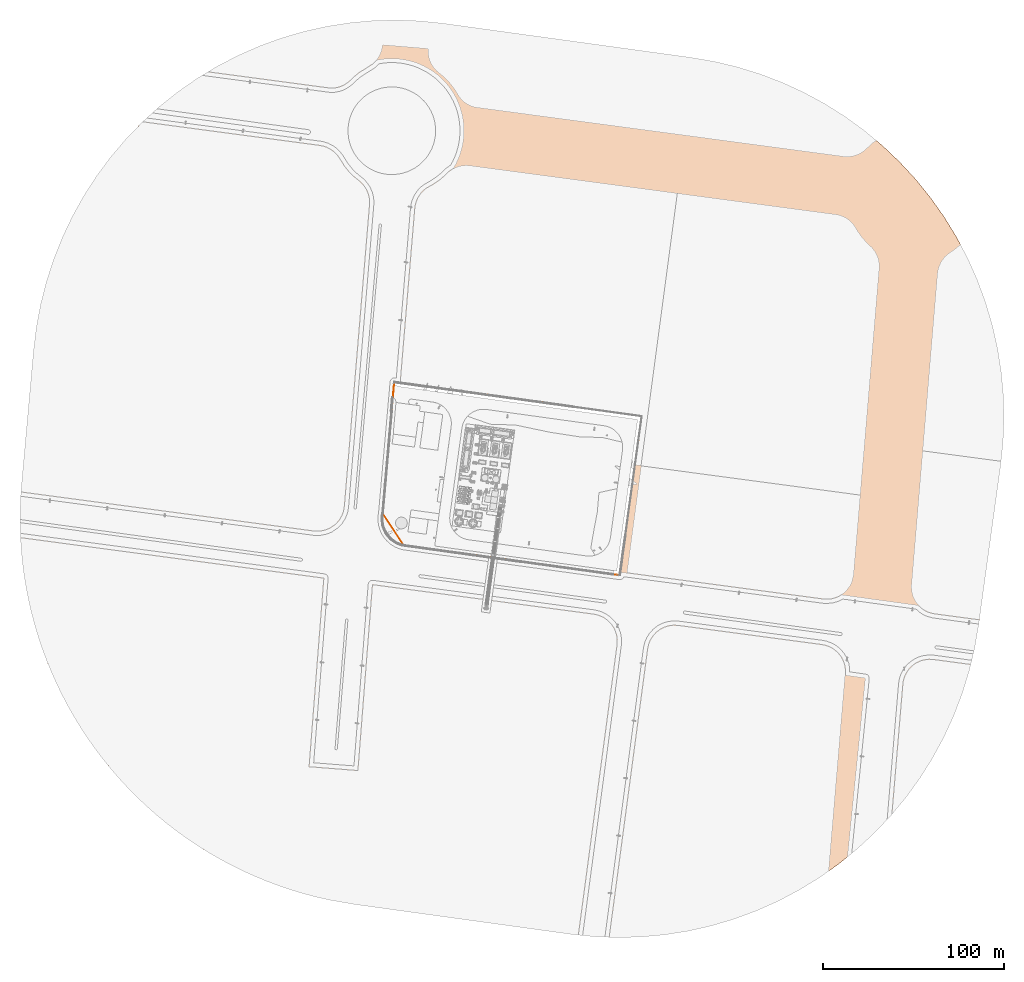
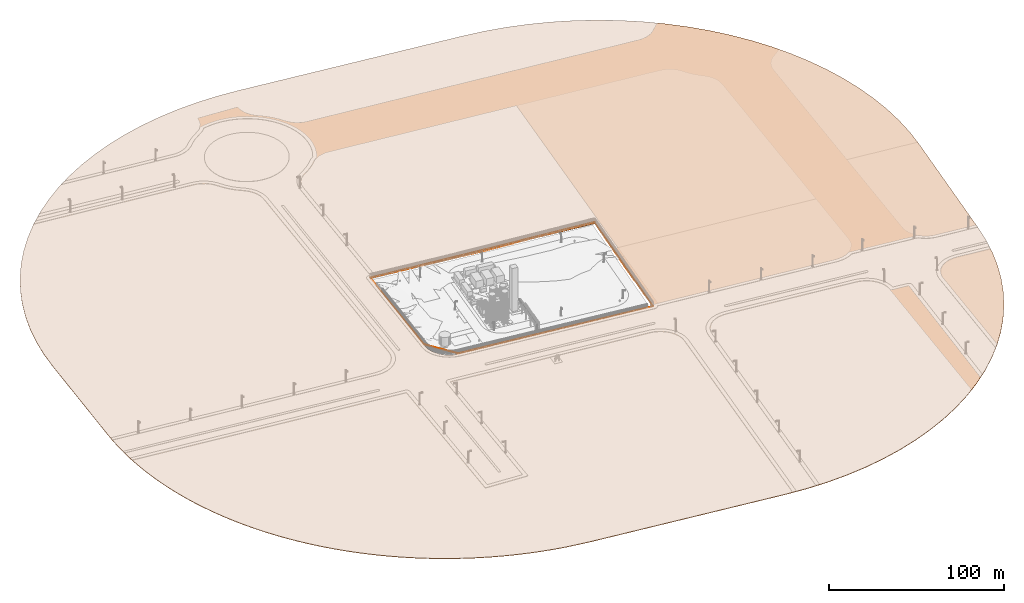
# Not in any storey, part 71 of 75: 1 geographic element, 1 proxy.
"""IFC4 model written with IfcOpenShell, lengths in metres."""

from ifc_helpers import new_model, si_unit, direction, origin, origin_with_axes, place, context, subcontext, project, spatial, triangles, element, save


model = new_model("IFC4")

# Units and contexts
model_context = context("Model", 3, precision=1e-05, world=origin_with_axes(), true_north=direction((0.0, 1.0)))
body_context = subcontext(model_context, "Body", "Model", "MODEL_VIEW")
ifc_project = project(units=[si_unit("AREAUNIT", "SQUARE_METRE"), si_unit("VOLUMEUNIT", "CUBIC_METRE"), si_unit("LENGTHUNIT", "METRE")], contexts=[model_context])

# Site
site_placement = place(None, origin_with_axes())
site = spatial("IfcSite", under=ifc_project, at=site_placement, Name="Parcela industrial Jinhong")

# Proxy
proxy_placement = place(site_placement, origin_with_axes())
element("IfcBuildingElementProxy", 1, at=proxy_placement, inside=site, Name="Lindero de parcela · línea de control de coordenadas", ObjectType="Lindero de parcela", PredefinedType="USERDEFINED", context=body_context, shape_type="Tessellation", body=[
    triangles([(0.56378, 109.37282, 0.74), (0.561348, 109.36662, 0.74), (0.562416, 109.369778, 0.74), (0.577305, 109.387198, 0.74), (0.565426, 109.375719, 0.74), (0.569508, 109.380982, 0.74), (0.567342, 109.378448, 0.74), (0.571905, 109.383299, 0.74), (0.574512, 109.385377, 0.74), (0.586539, 109.390962, 0.74), (0.580259, 109.388744, 0.74), (0.583346, 109.390003, 0.74), (0.596459, 109.39197, 0.74), (0.589808, 109.391613, 0.74), (0.593125, 109.39195, 0.74), (0.59978, 109.391672, 0.74), (137.257452, 90.553074, 3.04), (137.250779, 90.554672, 3.04), (137.254155, 90.554037, 3.04), (137.263684, 90.550204, 3.04), (137.260638, 90.551792, 3.04), (137.27169, 90.54377, 3.04), (137.266559, 90.548325, 3.04), (137.269237, 90.546174, 3.04), (137.273896, 90.541137, 3.04), (137.275834, 90.538301, 3.04), (137.277484, 90.535289, 3.04), (137.278831, 90.532129, 3.04), (137.280938, 90.522076, 3.04), (137.279862, 90.528853, 3.04), (137.280567, 90.525491, 3.04), (137.280974, 90.518642, 3.04), (137.206548, 90.490107, 3.039268), (131.154672, 46.07722, 1.94), (131.085328, 46.08678, 2.483314), (125.168073, 2.652547, 1.94), (125.169672, 2.659221, 1.94), (125.169037, 2.655845, 1.94), (125.163324, 2.643439, 1.94), (125.166791, 2.64936, 1.94), (125.165203, 2.646314, 1.94), (125.156134, 2.636101, 1.94), (125.161172, 2.640761, 1.94), (125.158768, 2.638308, 1.94), (125.150285, 2.632514, 1.94), (125.153298, 2.634164, 1.94), (125.147125, 2.631167, 1.94), (125.143848, 2.630137, 1.94), (125.140485, 2.629432, 1.94), (125.130214, 2.629329, 1.94), (125.13707, 2.629061, 1.94), (125.133635, 2.629027, 1.94), (6.01397, 19.073934, 0.79), (5.99282, 19.088673, 0.79), (6.017214, 19.073329, 0.79), (6.001989, 19.079285, 0.79), (6.010799, 19.074841, 0.79), (6.007726, 19.076043, 0.79), (6.004781, 19.077528, 0.79), (5.99696, 19.083546, 0.79), (5.999374, 19.081297, 0.79), (5.994769, 19.086012, 0.79), (6.042449, 19.140509, 0.790134), (-5.81318, 36.913673, 0.41), (-5.748061, 36.942122, 0.410747), (137.280672, 90.51522, 3.04), (0.560135, 109.360071, 0.74), (0.626639, 109.317307, 0.740087), (-5.81881, 36.929353, 0.41), (-5.818865, 36.936071, 0.41), (-5.8149, 36.916563, 0.41), (-5.817471, 36.92277, 0.41), (-5.816335, 36.919604, 0.41), (-5.818299, 36.926029, 0.41), (-5.818999, 36.932711, 0.41), (0.560585, 109.363374, 0.74), (68.92478, 99.972672, 0.89), (68.91522, 99.903328, 1.741883), (125.105108, 2.703459, 1.940136), (0.56378, 109.37282, 0.84), (0.561348, 109.36662, 0.84), (0.562416, 109.369778, 0.84), (0.577305, 109.387198, 0.84), (0.565426, 109.375719, 0.84), (0.569508, 109.380982, 0.84), (0.567342, 109.378448, 0.84), (0.571905, 109.383299, 0.84), (0.574512, 109.385377, 0.84), (0.586539, 109.390962, 0.84), (0.580259, 109.388744, 0.84), (0.583346, 109.390003, 0.84), (0.596459, 109.39197, 0.84), (0.589808, 109.391613, 0.84), (0.593125, 109.39195, 0.84), (0.59978, 109.391672, 0.84), (137.257452, 90.553074, 3.14), (137.250779, 90.554672, 3.14), (137.254155, 90.554037, 3.14), (137.263684, 90.550204, 3.14), (137.260638, 90.551792, 3.14), (137.27169, 90.54377, 3.14), (137.266559, 90.548325, 3.14), (137.269237, 90.546174, 3.14), (137.273896, 90.541137, 3.14), (137.275834, 90.538301, 3.14), (137.277484, 90.535289, 3.14), (137.278831, 90.532129, 3.14), (137.280938, 90.522076, 3.14), (137.279862, 90.528853, 3.14), (137.280567, 90.525491, 3.14), (137.280974, 90.518642, 3.14), (137.206548, 90.490107, 3.139268), (131.154672, 46.07722, 2.04), (131.085328, 46.08678, 2.583314), (125.168073, 2.652547, 2.04), (125.169672, 2.659221, 2.04), (125.169037, 2.655845, 2.04), (125.163324, 2.643439, 2.04), (125.166791, 2.64936, 2.04), (125.165203, 2.646314, 2.04), (125.156134, 2.636101, 2.04), (125.161172, 2.640761, 2.04), (125.158768, 2.638308, 2.04), (125.150285, 2.632514, 2.04), (125.153298, 2.634164, 2.04), (125.147125, 2.631167, 2.04), (125.143848, 2.630137, 2.04), (125.140485, 2.629432, 2.04), (125.130214, 2.629329, 2.04), (125.13707, 2.629061, 2.04), (125.133635, 2.629027, 2.04), (6.01397, 19.073934, 0.89), (5.99282, 19.088673, 0.89), (6.017214, 19.073329, 0.89), (6.001989, 19.079285, 0.89), (6.010799, 19.074841, 0.89), (6.007726, 19.076043, 0.89), (6.004781, 19.077528, 0.89), (5.99696, 19.083546, 0.89), (5.999374, 19.081297, 0.89), (5.994769, 19.086012, 0.89), (6.042449, 19.140509, 0.890134), (-5.81318, 36.913673, 0.51), (-5.748061, 36.942122, 0.510747), (137.280672, 90.51522, 3.14), (0.560135, 109.360071, 0.84), (0.626639, 109.317307, 0.840087), (-5.81881, 36.929353, 0.51), (-5.818865, 36.936071, 0.51), (-5.8149, 36.916563, 0.51), (-5.817471, 36.92277, 0.51), (-5.816335, 36.919604, 0.51), (-5.818299, 36.926029, 0.51), (-5.818999, 36.932711, 0.51), (0.560585, 109.363374, 0.84), (68.92478, 99.972672, 0.99), (68.91522, 99.903328, 1.841883), (125.105108, 2.703459, 2.040136)], [[1, 2, 3], [4, 5, 6], [5, 7, 6], [6, 8, 9], [10, 4, 11], [11, 12, 10], [13, 14, 15], [14, 13, 16], [17, 18, 19], [20, 17, 21], [22, 20, 23], [23, 24, 22], [22, 25, 26], [22, 27, 28], [29, 30, 31], [30, 29, 32], [33, 34, 35], [36, 37, 38], [39, 36, 40], [40, 41, 39], [42, 43, 44], [45, 42, 46], [42, 45, 47], [47, 48, 49], [50, 51, 52], [53, 54, 55], [56, 53, 57], [57, 58, 59], [60, 56, 61], [54, 60, 62], [63, 54, 64], [64, 65, 63], [18, 66, 33], [67, 16, 68], [69, 70, 71], [72, 71, 73], [69, 72, 74], [70, 69, 75], [1, 14, 2], [2, 67, 76], [5, 4, 1], [4, 6, 9], [4, 10, 14], [68, 77, 78], [28, 17, 22], [17, 20, 22], [27, 22, 26], [30, 32, 28], [39, 37, 36], [43, 42, 39], [50, 42, 47], [51, 47, 49], [79, 55, 63], [56, 57, 59], [53, 60, 54], [71, 70, 64], [71, 72, 69], [2, 14, 67], [14, 1, 4], [67, 14, 16], [17, 66, 18], [17, 28, 32], [37, 79, 34], [37, 39, 42], [51, 50, 47], [53, 56, 60], [64, 70, 65], [67, 68, 70], [18, 33, 77], [17, 32, 66], [37, 42, 50], [55, 54, 63], [65, 70, 68], [55, 79, 50], [77, 68, 16], [37, 50, 79], [78, 77, 33], [35, 34, 79], [34, 33, 66], [82, 81, 80], [85, 84, 83], [85, 86, 84], [88, 87, 85], [90, 83, 89], [89, 91, 90], [94, 93, 92], [95, 92, 93], [98, 97, 96], [100, 96, 99], [102, 99, 101], [101, 103, 102], [105, 104, 101], [107, 106, 101], [110, 109, 108], [111, 108, 109], [114, 113, 112], [117, 116, 115], [119, 115, 118], [118, 120, 119], [123, 122, 121], [125, 121, 124], [126, 124, 121], [128, 127, 126], [131, 130, 129], [134, 133, 132], [136, 132, 135], [138, 137, 136], [140, 135, 139], [141, 139, 133], [143, 133, 142], [142, 144, 143], [112, 145, 97], [147, 95, 146], [150, 149, 148], [152, 150, 151], [153, 151, 148], [154, 148, 149], [81, 93, 80], [155, 146, 81], [80, 83, 84], [88, 85, 83], [93, 89, 83], [157, 156, 147], [101, 96, 107], [101, 99, 96], [105, 101, 106], [107, 111, 109], [115, 116, 118], [118, 121, 122], [126, 121, 129], [128, 126, 130], [142, 134, 158], [138, 136, 135], [133, 139, 132], [143, 149, 150], [148, 151, 150], [146, 93, 81], [83, 80, 93], [95, 93, 146], [97, 145, 96], [111, 107, 96], [113, 158, 116], [121, 118, 116], [126, 129, 130], [139, 135, 132], [144, 149, 143], [149, 147, 146], [156, 112, 97], [145, 111, 96], [129, 121, 116], [142, 133, 134], [147, 149, 144], [129, 158, 134], [95, 147, 156], [158, 129, 116], [112, 156, 157], [158, 113, 114], [145, 112, 113], [82, 80, 3], [3, 80, 1], [81, 82, 2], [2, 82, 3], [80, 84, 1], [1, 84, 5], [84, 86, 5], [5, 86, 7], [86, 85, 7], [7, 85, 6], [85, 87, 6], [6, 87, 8], [88, 83, 9], [9, 83, 4], [87, 88, 8], [8, 88, 9], [83, 90, 4], [4, 90, 11], [91, 89, 12], [12, 89, 10], [90, 91, 11], [11, 91, 12], [89, 93, 10], [10, 93, 14], [94, 92, 15], [15, 92, 13], [93, 94, 14], [14, 94, 15], [92, 95, 13], [13, 95, 16], [98, 96, 19], [19, 96, 17], [97, 98, 18], [18, 98, 19], [96, 100, 17], [17, 100, 21], [100, 99, 21], [21, 99, 20], [99, 102, 20], [20, 102, 23], [103, 101, 24], [24, 101, 22], [102, 103, 23], [23, 103, 24], [101, 104, 22], [22, 104, 25], [104, 105, 25], [25, 105, 26], [105, 106, 26], [26, 106, 27], [106, 107, 27], [27, 107, 28], [107, 109, 28], [28, 109, 30], [110, 108, 31], [31, 108, 29], [109, 110, 30], [30, 110, 31], [108, 111, 29], [29, 111, 32], [114, 112, 35], [35, 112, 33], [113, 116, 34], [34, 116, 37], [117, 115, 38], [38, 115, 36], [116, 117, 37], [37, 117, 38], [115, 119, 36], [36, 119, 40], [120, 118, 41], [41, 118, 39], [119, 120, 40], [40, 120, 41], [118, 122, 39], [39, 122, 43], [123, 121, 44], [44, 121, 42], [122, 123, 43], [43, 123, 44], [121, 125, 42], [42, 125, 46], [125, 124, 46], [46, 124, 45], [124, 126, 45], [45, 126, 47], [126, 127, 47], [47, 127, 48], [127, 128, 48], [48, 128, 49], [128, 130, 49], [49, 130, 51], [131, 129, 52], [52, 129, 50], [130, 131, 51], [51, 131, 52], [129, 134, 50], [50, 134, 55], [134, 132, 55], [55, 132, 53], [132, 136, 53], [53, 136, 57], [136, 137, 57], [57, 137, 58], [138, 135, 59], [59, 135, 56], [137, 138, 58], [58, 138, 59], [135, 140, 56], [56, 140, 61], [140, 139, 61], [61, 139, 60], [141, 133, 62], [62, 133, 54], [139, 141, 60], [60, 141, 62], [133, 143, 54], [54, 143, 64], [144, 142, 65], [65, 142, 63], [111, 145, 32], [32, 145, 66], [145, 113, 66], [66, 113, 34], [147, 144, 68], [68, 144, 65], [149, 146, 70], [70, 146, 67], [143, 150, 64], [64, 150, 71], [150, 152, 71], [71, 152, 73], [152, 151, 73], [73, 151, 72], [153, 148, 74], [74, 148, 69], [151, 153, 72], [72, 153, 74], [148, 154, 69], [69, 154, 75], [154, 149, 75], [75, 149, 70], [155, 81, 76], [76, 81, 2], [146, 155, 67], [67, 155, 76], [95, 156, 16], [16, 156, 77], [156, 97, 77], [77, 97, 18], [112, 157, 33], [33, 157, 78], [157, 147, 78], [78, 147, 68], [158, 114, 79], [79, 114, 35], [142, 158, 63], [63, 158, 79]], closed=True),
])

# Geographic element
geographic_element_placement = place(None, origin())
element("IfcGeographicElement", 2, at=geographic_element_placement, inside=site, Name="Terreno exterior · alcance 200 m", ObjectType="Terreno exterior · alcance 200 m", PredefinedType="USERDEFINED", context=body_context, shape_type="Tessellation", body=[
    triangles([(0.595, 109.357, 0.287181), (-194.714322, 152.418223, -1.818957), (-191.515064, 164.978249, -1.749062), (-187.508994, 177.304681, -1.670615), (-182.712937, 189.345751, -1.583946), (-177.147035, 201.050888, -1.489419), (-170.834662, 212.370935, -1.387431), (-163.80233, 223.258351, -1.278409), (-156.079573, 233.667411, -1.162813), (-138.695278, 252.877795, -0.913862), (-129.10675, 261.59844, -0.781553), (-118.973509, 269.679711, -0.644756), (-108.338112, 277.087669, -0.504045), (-97.245224, 283.791201, -0.360012), (-73.875051, 294.975457, -0.064406), (-61.695915, 299.409209, 0.085924), (-49.255173, 303.044791, 0.2371), (-36.605073, 305.866935, 0.388485), (-23.798743, 307.863789, 0.539446), (-10.889966, 309.026967, 0.689347), (-205.258931, 52.9119, -2.204378), (-5.784005, 36.93326, 0.021395), (-6.065213, 34.971371, 0.012962), (-206.036999, 39.309991, -2.249519), (-6.104833, 33.48497, 0.008545), (2.067045, 309.351583, 0.837559), (15.017874, 308.836274, 0.983459), (177.457918, 286.434428, 2.770936), (137.245324, 90.518764, 1.790889), (164.558455, 288.644968, 2.630143), (190.185187, 283.384963, 2.907532), (202.685765, 279.509633, 3.039347), (214.906123, 274.825032, 3.165816), (226.793931, 269.351219, 3.286397), (238.298287, 263.111634, 3.400575), (249.369927, 256.132994, 3.507859), (259.961443, 248.445184, 3.607792), (270.02748, 240.081123, 3.699944), (279.524935, 231.076625, 3.783922), (304.212328, 200.618807, 3.983395), (296.654033, 211.303132, 3.925951), (311.05566, 189.463027, 4.03145), (317.154725, 177.88356, 4.069911), (322.483405, 165.929992, 4.098613), (327.018884, 153.653509, 4.117433), (330.74174, 141.106678, 4.126291), (333.636032, 128.343226, 4.125148), (335.689366, 115.417807, 4.11401), (336.892949, 102.385769, 4.092924), (337.241628, 89.302916, 4.061981), (336.73391, 76.225269, 4.021313), (335.371969, 63.208828, 3.971094), (318.0015, -50.27581, 3.470752), (125.13542, 2.664487, 1.418758), (321.051363, -37.546747, 3.539399), (314.125541, -62.778116, 3.393316), (290.744247, -109.468098, 3.002845), (297.724348, -98.395208, 3.111767), (283.054798, -120.060694, 2.887138), (265.682502, -139.625772, 2.637377), (274.688939, -130.127625, 2.765141), (256.074064, -148.514452, 2.504394), (212.47832, -177.255545, 1.931939), (224.060125, -171.156981, 2.079919), (188.24358, -187.117915, 1.630029), (200.522401, -182.583464, 1.781761), (162.928761, -193.732212, 1.324503), (175.694449, -190.839478, 1.477391), (136.967119, -196.985234, 1.02059), (150.001194, -195.783726, 1.172018), (97.784986, -195.456572, 0.579094), (110.802982, -196.821305, 0.723491), (-21.328239, -179.013098, -0.731574), (6.022195, 19.10796, 0.108091), (-49.726157, -173.022185, -1.038526), (4.578563, 19.464171, 0.092625), (-42.856508, -174.846703, -0.965274), (-56.059255, -171.121912, -1.105475), (-69.921038, -166.201337, -1.249981), (3.1773, 19.961583, 0.078017), (-63.265821, -168.697139, -1.180958), (-82.96588, -160.556814, -1.383264), (-76.034841, -163.683283, -1.312787), (1.832178, 20.595308, 0.064411), (-89.341247, -157.414261, -1.447379), (-95.175656, -154.303177, -1.505426), (0.148772, 21.641363, 0.048059), (-119.47253, -138.642728, -1.739941), (-125.10356, -134.305398, -1.792404), (-113.293555, -143.073798, -1.681498), (-130.210444, -130.105527, -1.839272), (-1.382, 22.900261, 0.03401), (-135.920274, -125.084376, -1.890806), (-140.738489, -120.556244, -1.933516), (-155.61043, -104.601971, -2.060068), (-2.413717, 23.971016, 0.025135), (-150.944596, -109.963961, -2.021316), (-159.789485, -99.47804, -2.09392), (-172.160886, -82.119882, -2.18829), (-3.614921, 25.547466, 0.015681), (-168.509755, -87.632451, -2.161479), (-176.147681, -75.645348, -2.216352), (-4.373531, 26.826321, 0.010466), (-182.752632, -63.621987, -2.259381), (-186.078707, -56.784491, -2.278961), (-5.001776, 28.17401, 0.006918), (-188.967455, -50.290181, -2.294483), (-196.176332, -30.757584, -2.324343), (-194.093271, -37.032935, -2.317399), (-5.626167, 30.055026, 0.004837), (-198.199224, -23.943713, -2.329166), (-5.997072, 32.001951, 0.005814), (-201.664842, -9.648589, -2.330434), (-202.986961, -2.664826, -2.326834), (-204.077504, 4.358824, -2.320495), (-204.883019, 10.921622, -2.312144), (-205.523416, 18.000522, -2.300538), (-205.949032, 25.59216, -2.285122), (-206.100721, 32.202468, -2.269209), (-205.738368, 46.411523, -2.227174), (-198.642102, 126.809141, -1.931955), (-197.093331, 139.677351, -1.880007), (-147.698823, 243.5544, -1.041127), (-85.741432, 289.762156, -0.21326), (27.908131, 307.483204, 1.126435), (309.440086, -75.000113, 3.307422), (303.965205, -86.889453, 3.213438), (123.882367, -197.331588, 0.870867), (-101.763039, -150.505744, -1.570204), (-107.795888, -146.74733, -1.628781), (-164.397812, -93.430111, -2.130188), (-179.665315, -69.469007, -2.239874), (-191.46061, -44.166182, -2.306494), (288.413139, 221.47025, 3.859365), (323.262065, -24.645449, 3.598963), (-35.445254, -176.545945, -0.885528), (-145.760036, -115.525836, -1.977198), (-199.995772, -17.066696, -2.331247), (245.904781, -156.755592, 2.36676), (235.21821, -164.313893, 2.225066), (0.595, 109.357, 0.587181), (-194.714322, 152.418223, -1.518957), (-191.515064, 164.978249, -1.449062), (-187.508994, 177.304681, -1.370615), (-182.712937, 189.345751, -1.283946), (-177.147035, 201.050888, -1.189419), (-170.834662, 212.370935, -1.087431), (-163.80233, 223.258351, -0.978409), (-156.079573, 233.667411, -0.862813), (-138.695278, 252.877795, -0.613862), (-129.10675, 261.59844, -0.481553), (-118.973509, 269.679711, -0.344756), (-108.338112, 277.087669, -0.204045), (-97.245224, 283.791201, -0.060012), (-73.875051, 294.975457, 0.235594), (-61.695915, 299.409209, 0.385924), (-49.255173, 303.044791, 0.5371), (-36.605073, 305.866935, 0.688485), (-23.798743, 307.863789, 0.839446), (-10.889966, 309.026967, 0.989347), (-205.258931, 52.9119, -1.904378), (-5.784005, 36.93326, 0.321395), (-6.065213, 34.971371, 0.312962), (-206.036999, 39.309991, -1.949519), (-6.104833, 33.48497, 0.308545), (2.067045, 309.351583, 1.137559), (15.017874, 308.836274, 1.283459), (177.457918, 286.434428, 3.070936), (137.245324, 90.518764, 2.090889), (164.558455, 288.644968, 2.930143), (190.185187, 283.384963, 3.207532), (202.685765, 279.509633, 3.339347), (214.906123, 274.825032, 3.465816), (226.793931, 269.351219, 3.586397), (238.298287, 263.111634, 3.700575), (249.369927, 256.132994, 3.807859), (259.961443, 248.445184, 3.907792), (270.02748, 240.081123, 3.999944), (279.524935, 231.076625, 4.083922), (304.212328, 200.618807, 4.283395), (296.654033, 211.303132, 4.225951), (311.05566, 189.463027, 4.33145), (317.154725, 177.88356, 4.369911), (322.483405, 165.929992, 4.398613), (327.018884, 153.653509, 4.417433), (330.74174, 141.106678, 4.426291), (333.636032, 128.343226, 4.425148), (335.689366, 115.417807, 4.41401), (336.892949, 102.385769, 4.392924), (337.241628, 89.302916, 4.361981), (336.73391, 76.225269, 4.321313), (335.371969, 63.208828, 4.271094), (318.0015, -50.27581, 3.770752), (125.13542, 2.664487, 1.718758), (321.051363, -37.546747, 3.839399), (314.125541, -62.778116, 3.693316), (290.744247, -109.468098, 3.302845), (297.724348, -98.395208, 3.411767), (283.054798, -120.060694, 3.187138), (265.682502, -139.625772, 2.937377), (274.688939, -130.127625, 3.065141), (256.074064, -148.514452, 2.804394), (212.47832, -177.255545, 2.231939), (224.060125, -171.156981, 2.379919), (188.24358, -187.117915, 1.930029), (200.522401, -182.583464, 2.081761), (162.928761, -193.732212, 1.624503), (175.694449, -190.839478, 1.777391), (136.967119, -196.985234, 1.32059), (150.001194, -195.783726, 1.472018), (97.784986, -195.456572, 0.879094), (110.802982, -196.821305, 1.023491), (-21.328239, -179.013098, -0.431574), (6.022195, 19.10796, 0.408091), (-49.726157, -173.022185, -0.738526), (4.578563, 19.464171, 0.392625), (-42.856508, -174.846703, -0.665274), (-56.059255, -171.121912, -0.805475), (-69.921038, -166.201337, -0.949981), (3.1773, 19.961583, 0.378017), (-63.265821, -168.697139, -0.880958), (-82.96588, -160.556814, -1.083264), (-76.034841, -163.683283, -1.012787), (1.832178, 20.595308, 0.364411), (-89.341247, -157.414261, -1.147379), (-95.175656, -154.303177, -1.205426), (0.148772, 21.641363, 0.348059), (-119.47253, -138.642728, -1.439941), (-125.10356, -134.305398, -1.492404), (-113.293555, -143.073798, -1.381498), (-130.210444, -130.105527, -1.539272), (-1.382, 22.900261, 0.33401), (-135.920274, -125.084376, -1.590806), (-140.738489, -120.556244, -1.633516), (-155.61043, -104.601971, -1.760068), (-2.413717, 23.971016, 0.325135), (-150.944596, -109.963961, -1.721316), (-159.789485, -99.47804, -1.79392), (-172.160886, -82.119882, -1.88829), (-3.614921, 25.547466, 0.315681), (-168.509755, -87.632451, -1.861479), (-176.147681, -75.645348, -1.916352), (-4.373531, 26.826321, 0.310466), (-182.752632, -63.621987, -1.959381), (-186.078707, -56.784491, -1.978961), (-5.001776, 28.17401, 0.306918), (-188.967455, -50.290181, -1.994483), (-196.176332, -30.757584, -2.024343), (-194.093271, -37.032935, -2.017399), (-5.626167, 30.055026, 0.304837), (-198.199224, -23.943713, -2.029166), (-5.997072, 32.001951, 0.305814), (-201.664842, -9.648589, -2.030434), (-202.986961, -2.664826, -2.026834), (-204.077504, 4.358824, -2.020495), (-204.883019, 10.921622, -2.012144), (-205.523416, 18.000522, -2.000538), (-205.949032, 25.59216, -1.985122), (-206.100721, 32.202468, -1.969209), (-205.738368, 46.411523, -1.927174), (-198.642102, 126.809141, -1.631955), (-197.093331, 139.677351, -1.580007), (-147.698823, 243.5544, -0.741127), (-85.741432, 289.762156, 0.08674), (27.908131, 307.483204, 1.426435), (309.440086, -75.000113, 3.607422), (303.965205, -86.889453, 3.513438), (123.882367, -197.331588, 1.170867), (-101.763039, -150.505744, -1.270204), (-107.795888, -146.74733, -1.328781), (-164.397812, -93.430111, -1.830188), (-179.665315, -69.469007, -1.939874), (-191.46061, -44.166182, -2.006494), (288.413139, 221.47025, 4.159365), (323.262065, -24.645449, 3.898963), (-35.445254, -176.545945, -0.585528), (-145.760036, -115.525836, -1.677198), (-199.995772, -17.066696, -2.031247), (245.904781, -156.755592, 2.66676), (235.21821, -164.313893, 2.525066)], [[1, 2, 3], [1, 4, 5], [1, 6, 7], [1, 8, 9], [1, 10, 11], [1, 11, 12], [1, 13, 14], [1, 15, 16], [1, 16, 17], [1, 18, 19], [1, 19, 20], [21, 22, 23], [24, 23, 25], [1, 26, 27], [28, 29, 30], [29, 31, 32], [29, 32, 33], [29, 34, 35], [29, 36, 37], [29, 38, 39], [40, 29, 41], [29, 40, 42], [29, 43, 44], [29, 45, 46], [29, 47, 48], [29, 49, 50], [29, 51, 52], [53, 54, 55], [54, 53, 56], [57, 54, 58], [54, 57, 59], [60, 54, 61], [54, 60, 62], [63, 54, 64], [65, 54, 66], [67, 54, 68], [69, 54, 70], [71, 54, 72], [73, 74, 71], [75, 76, 77], [78, 76, 75], [79, 80, 81], [82, 80, 83], [80, 82, 84], [84, 85, 86], [87, 88, 89], [87, 90, 88], [87, 89, 91], [92, 93, 94], [95, 96, 97], [96, 95, 98], [99, 100, 101], [100, 99, 102], [103, 104, 105], [106, 105, 107], [108, 106, 109], [110, 108, 111], [112, 113, 114], [112, 114, 115], [112, 116, 117], [25, 118, 119], [23, 24, 120], [1, 121, 122], [1, 122, 2], [1, 5, 6], [1, 9, 123], [1, 12, 13], [1, 124, 15], [1, 17, 18], [121, 1, 22], [1, 27, 125], [31, 29, 28], [36, 29, 35], [38, 29, 37], [29, 42, 43], [29, 46, 47], [51, 29, 50], [126, 54, 56], [58, 54, 127], [61, 54, 59], [68, 54, 65], [72, 54, 128], [128, 54, 69], [81, 76, 78], [76, 81, 80], [84, 86, 129], [92, 91, 93], [90, 87, 130], [100, 98, 131], [103, 102, 132], [106, 107, 133], [108, 110, 106], [116, 112, 115], [25, 119, 24], [23, 120, 21], [1, 3, 4], [1, 123, 10], [1, 14, 124], [26, 1, 20], [30, 29, 125], [41, 29, 134], [45, 29, 44], [55, 54, 135], [127, 54, 126], [70, 54, 67], [136, 74, 73], [85, 84, 82], [87, 129, 130], [97, 96, 137], [110, 111, 138], [25, 117, 118], [22, 21, 121], [1, 7, 8], [1, 125, 29], [29, 39, 134], [135, 54, 52], [77, 74, 136], [83, 80, 79], [101, 100, 131], [113, 110, 138], [117, 25, 112], [34, 29, 33], [49, 29, 48], [129, 87, 84], [110, 113, 112], [105, 106, 103], [29, 52, 54], [109, 106, 133], [139, 54, 62], [104, 103, 132], [140, 54, 139], [102, 103, 100], [64, 54, 140], [98, 100, 96], [66, 54, 63], [92, 137, 96], [54, 71, 74], [137, 92, 94], [74, 77, 76], [91, 92, 87], [143, 142, 141], [145, 144, 141], [147, 146, 141], [149, 148, 141], [151, 150, 141], [152, 151, 141], [154, 153, 141], [156, 155, 141], [157, 156, 141], [159, 158, 141], [160, 159, 141], [163, 162, 161], [165, 163, 164], [167, 166, 141], [170, 169, 168], [172, 171, 169], [173, 172, 169], [175, 174, 169], [177, 176, 169], [179, 178, 169], [181, 169, 180], [182, 180, 169], [184, 183, 169], [186, 185, 169], [188, 187, 169], [190, 189, 169], [192, 191, 169], [195, 194, 193], [196, 193, 194], [198, 194, 197], [199, 197, 194], [201, 194, 200], [202, 200, 194], [204, 194, 203], [206, 194, 205], [208, 194, 207], [210, 194, 209], [212, 194, 211], [211, 214, 213], [217, 216, 215], [215, 216, 218], [221, 220, 219], [223, 220, 222], [224, 222, 220], [226, 225, 224], [229, 228, 227], [228, 230, 227], [231, 229, 227], [234, 233, 232], [237, 236, 235], [238, 235, 236], [241, 240, 239], [242, 239, 240], [245, 244, 243], [247, 245, 246], [249, 246, 248], [251, 248, 250], [254, 253, 252], [255, 254, 252], [257, 256, 252], [259, 258, 165], [260, 164, 163], [262, 261, 141], [142, 262, 141], [146, 145, 141], [263, 149, 141], [153, 152, 141], [155, 264, 141], [158, 157, 141], [162, 141, 261], [265, 167, 141], [168, 169, 171], [175, 169, 176], [177, 169, 178], [183, 182, 169], [187, 186, 169], [190, 169, 191], [196, 194, 266], [267, 194, 198], [199, 194, 201], [205, 194, 208], [268, 194, 212], [209, 194, 268], [218, 216, 221], [220, 221, 216], [269, 226, 224], [233, 231, 232], [270, 227, 230], [271, 238, 240], [272, 242, 243], [273, 247, 246], [246, 250, 248], [255, 252, 256], [164, 259, 165], [161, 260, 163], [144, 143, 141], [150, 263, 141], [264, 154, 141], [160, 141, 166], [265, 169, 170], [274, 169, 181], [184, 169, 185], [275, 194, 195], [266, 194, 267], [207, 194, 210], [213, 214, 276], [222, 224, 225], [270, 269, 227], [277, 236, 237], [278, 251, 250], [258, 257, 165], [261, 161, 162], [148, 147, 141], [169, 265, 141], [274, 179, 169], [192, 194, 275], [276, 214, 217], [219, 220, 223], [271, 240, 241], [278, 250, 253], [252, 165, 257], [173, 169, 174], [188, 169, 189], [224, 227, 269], [252, 253, 250], [243, 246, 245], [194, 192, 169], [273, 246, 249], [202, 194, 279], [272, 243, 244], [279, 194, 280], [240, 243, 242], [280, 194, 204], [236, 240, 238], [203, 194, 206], [236, 277, 232], [214, 211, 194], [234, 232, 277], [216, 217, 214], [227, 232, 231], [142, 143, 2], [2, 143, 3], [143, 144, 3], [3, 144, 4], [144, 145, 4], [4, 145, 5], [145, 146, 5], [5, 146, 6], [146, 147, 6], [6, 147, 7], [147, 148, 7], [7, 148, 8], [148, 149, 8], [8, 149, 9], [150, 151, 10], [10, 151, 11], [151, 152, 11], [11, 152, 12], [152, 153, 12], [12, 153, 13], [153, 154, 13], [13, 154, 14], [155, 156, 15], [15, 156, 16], [156, 157, 16], [16, 157, 17], [157, 158, 17], [17, 158, 18], [158, 159, 18], [18, 159, 19], [159, 160, 19], [19, 160, 20], [141, 162, 1], [1, 162, 22], [162, 163, 22], [22, 163, 23], [163, 165, 23], [23, 165, 25], [160, 166, 20], [20, 166, 26], [166, 167, 26], [26, 167, 27], [169, 141, 29], [29, 141, 1], [170, 168, 30], [30, 168, 28], [168, 171, 28], [28, 171, 31], [171, 172, 31], [31, 172, 32], [172, 173, 32], [32, 173, 33], [173, 174, 33], [33, 174, 34], [174, 175, 34], [34, 175, 35], [175, 176, 35], [35, 176, 36], [176, 177, 36], [36, 177, 37], [177, 178, 37], [37, 178, 38], [178, 179, 38], [38, 179, 39], [181, 180, 41], [41, 180, 40], [180, 182, 40], [40, 182, 42], [182, 183, 42], [42, 183, 43], [183, 184, 43], [43, 184, 44], [184, 185, 44], [44, 185, 45], [185, 186, 45], [45, 186, 46], [186, 187, 46], [46, 187, 47], [187, 188, 47], [47, 188, 48], [188, 189, 48], [48, 189, 49], [189, 190, 49], [49, 190, 50], [190, 191, 50], [50, 191, 51], [191, 192, 51], [51, 192, 52], [194, 169, 54], [54, 169, 29], [195, 193, 55], [55, 193, 53], [193, 196, 53], [53, 196, 56], [198, 197, 58], [58, 197, 57], [197, 199, 57], [57, 199, 59], [199, 201, 59], [59, 201, 61], [201, 200, 61], [61, 200, 60], [200, 202, 60], [60, 202, 62], [204, 203, 64], [64, 203, 63], [203, 206, 63], [63, 206, 66], [206, 205, 66], [66, 205, 65], [205, 208, 65], [65, 208, 68], [208, 207, 68], [68, 207, 67], [207, 210, 67], [67, 210, 70], [210, 209, 70], [70, 209, 69], [212, 211, 72], [72, 211, 71], [211, 213, 71], [71, 213, 73], [214, 194, 74], [74, 194, 54], [216, 214, 76], [76, 214, 74], [217, 215, 77], [77, 215, 75], [215, 218, 75], [75, 218, 78], [220, 216, 80], [80, 216, 76], [218, 221, 78], [78, 221, 81], [221, 219, 81], [81, 219, 79], [219, 223, 79], [79, 223, 83], [223, 222, 83], [83, 222, 82], [224, 220, 84], [84, 220, 80], [222, 225, 82], [82, 225, 85], [225, 226, 85], [85, 226, 86], [227, 224, 87], [87, 224, 84], [228, 229, 88], [88, 229, 89], [230, 228, 90], [90, 228, 88], [229, 231, 89], [89, 231, 91], [232, 227, 92], [92, 227, 87], [231, 233, 91], [91, 233, 93], [233, 234, 93], [93, 234, 94], [236, 232, 96], [96, 232, 92], [237, 235, 97], [97, 235, 95], [235, 238, 95], [95, 238, 98], [240, 236, 100], [100, 236, 96], [241, 239, 101], [101, 239, 99], [239, 242, 99], [99, 242, 102], [243, 240, 103], [103, 240, 100], [244, 245, 104], [104, 245, 105], [246, 243, 106], [106, 243, 103], [245, 247, 105], [105, 247, 107], [249, 248, 109], [109, 248, 108], [250, 246, 110], [110, 246, 106], [248, 251, 108], [108, 251, 111], [165, 252, 25], [25, 252, 112], [252, 250, 112], [112, 250, 110], [253, 254, 113], [113, 254, 114], [254, 255, 114], [114, 255, 115], [255, 256, 115], [115, 256, 116], [256, 257, 116], [116, 257, 117], [257, 258, 117], [117, 258, 118], [259, 164, 119], [119, 164, 24], [258, 259, 118], [118, 259, 119], [260, 161, 120], [120, 161, 21], [164, 260, 24], [24, 260, 120], [161, 261, 21], [21, 261, 121], [262, 142, 122], [122, 142, 2], [261, 262, 121], [121, 262, 122], [149, 263, 9], [9, 263, 123], [263, 150, 123], [123, 150, 10], [154, 264, 14], [14, 264, 124], [264, 155, 124], [124, 155, 15], [167, 265, 27], [27, 265, 125], [265, 170, 125], [125, 170, 30], [196, 266, 56], [56, 266, 126], [267, 198, 127], [127, 198, 58], [266, 267, 126], [126, 267, 127], [209, 268, 69], [69, 268, 128], [268, 212, 128], [128, 212, 72], [226, 269, 86], [86, 269, 129], [270, 230, 130], [130, 230, 90], [269, 270, 129], [129, 270, 130], [238, 271, 98], [98, 271, 131], [271, 241, 131], [131, 241, 101], [242, 272, 102], [102, 272, 132], [272, 244, 132], [132, 244, 104], [247, 273, 107], [107, 273, 133], [273, 249, 133], [133, 249, 109], [179, 274, 39], [39, 274, 134], [274, 181, 134], [134, 181, 41], [192, 275, 52], [52, 275, 135], [275, 195, 135], [135, 195, 55], [213, 276, 73], [73, 276, 136], [276, 217, 136], [136, 217, 77], [234, 277, 94], [94, 277, 137], [277, 237, 137], [137, 237, 97], [251, 278, 111], [111, 278, 138], [278, 253, 138], [138, 253, 113], [202, 279, 62], [62, 279, 139], [280, 204, 140], [140, 204, 64], [279, 280, 139], [139, 280, 140]], closed=True),
])

save(model, "model.ifc")
